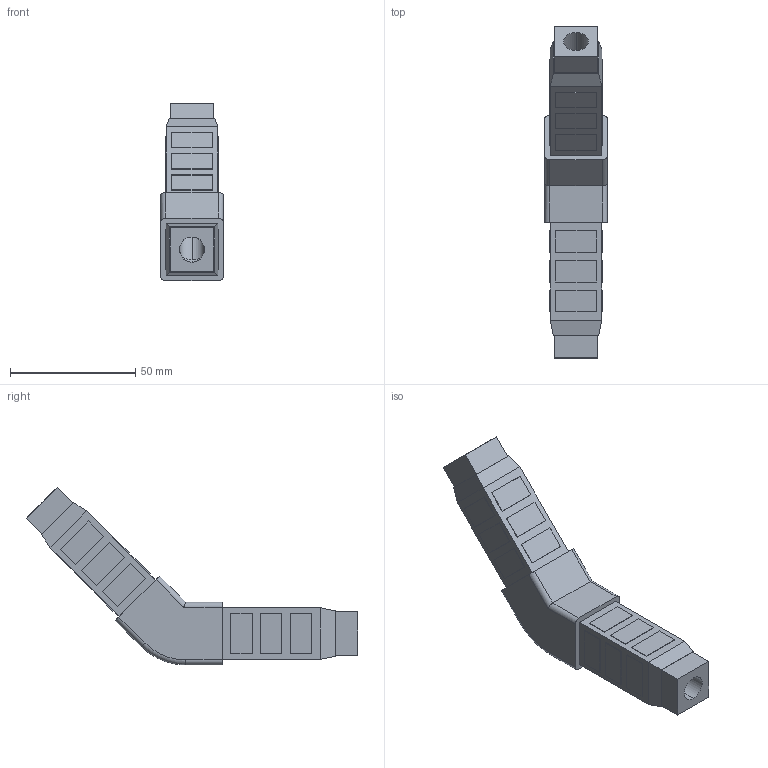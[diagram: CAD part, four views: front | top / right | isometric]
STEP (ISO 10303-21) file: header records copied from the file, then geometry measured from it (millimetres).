
FILE_DESCRIPTION (( 'STEP AP203' ), '1' );
FILE_NAME ('F025145.STEP', '2017-03-22T12:46:43', ( 'Localadmin' ), ( 'Microsoft' ), 'SwSTEP 2.0', 'SolidWorks 2016', '' );
FILE_SCHEMA (( 'CONFIG_CONTROL_DESIGN' ));
Length unit declared in the file: millimetre
Products named in the file (1): F025145
Bounding box: 25 x 132.21 x 70.89 mm (x, y, z)
Volume: 56468.1 mm3; surface area: 36326.7 mm2
Topology: 2 solids, 2 shells, 186 faces, 440 edges, 284 vertices
Faces by surface type: plane 160, cylinder 17, cone 7, torus 2
Entity records: 5339 total; most frequent: CARTESIAN_POINT 981, ORIENTED_EDGE 880, DIRECTION 826, EDGE_CURVE 440, VECTOR 396, LINE 396, VERTEX_POINT 284, EDGE_LOOP 216
